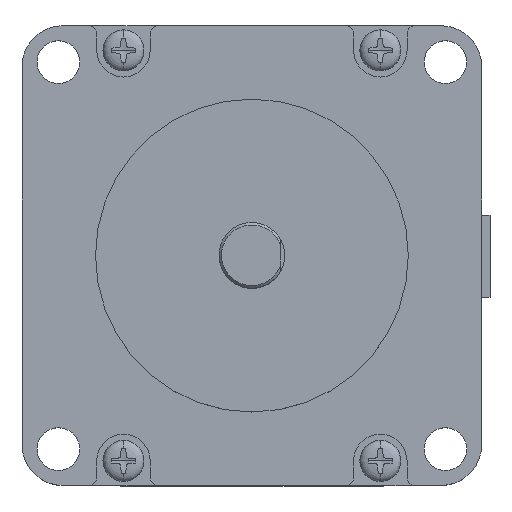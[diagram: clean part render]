
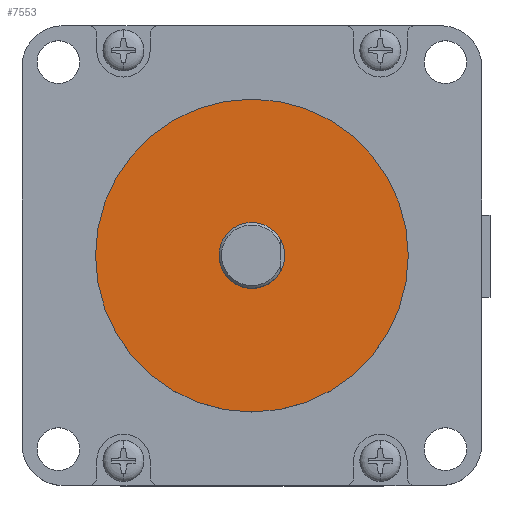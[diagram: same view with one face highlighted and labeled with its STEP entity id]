
A CAD part, top view. The second image highlights one B-rep face of the part: STEP entity #7553.
In plain terms, the highlighted planar face has unit normal (0, 0, 1).
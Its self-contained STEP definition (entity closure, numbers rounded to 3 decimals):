
#696=CARTESIAN_POINT('',(28.,28.,56.6));
#697=DIRECTION('',(0.,0.,1.));
#698=DIRECTION('',(1.,0.,0.));
#699=AXIS2_PLACEMENT_3D('',#696,#697,#698);
#701=CARTESIAN_POINT('',(28.,28.,56.6));
#702=DIRECTION('',(0.,0.,1.));
#703=DIRECTION('',(-1.,0.,0.));
#704=AXIS2_PLACEMENT_3D('',#701,#702,#703);
#706=CARTESIAN_POINT('',(28.,28.,56.6));
#707=DIRECTION('',(0.,0.,-1.));
#708=DIRECTION('',(-1.,0.,0.));
#709=AXIS2_PLACEMENT_3D('',#706,#707,#708);
#715=CARTESIAN_POINT('',(28.,28.,56.6));
#716=DIRECTION('',(0.,0.,-1.));
#717=DIRECTION('',(1.,0.,0.));
#718=AXIS2_PLACEMENT_3D('',#715,#716,#717);
#6500=CARTESIAN_POINT('',(47.05,28.,56.6));
#6501=CARTESIAN_POINT('',(8.95,28.,56.6));
#6502=VERTEX_POINT('',#6500);
#6503=VERTEX_POINT('',#6501);
#6504=CARTESIAN_POINT('',(24.,28.,56.6));
#6505=CARTESIAN_POINT('',(32.,28.,56.6));
#6506=VERTEX_POINT('',#6504);
#6507=VERTEX_POINT('',#6505);
#7538=CARTESIAN_POINT('',(0.,0.,56.6));
#7539=DIRECTION('',(0.,0.,1.));
#7540=DIRECTION('',(1.,0.,0.));
#7541=AXIS2_PLACEMENT_3D('',#7538,#7539,#7540);
#7542=PLANE('',#7541);
#7543=ORIENTED_EDGE('',*,*,#7518,.F.);
#7544=ORIENTED_EDGE('',*,*,#7532,.F.);
#7545=EDGE_LOOP('',(#7543,#7544));
#7546=FACE_OUTER_BOUND('',#7545,.F.);
#7548=ORIENTED_EDGE('',*,*,#7547,.F.);
#7550=ORIENTED_EDGE('',*,*,#7549,.F.);
#7551=EDGE_LOOP('',(#7548,#7550));
#7552=FACE_BOUND('',#7551,.F.);
#7553=ADVANCED_FACE('',(#7546,#7552),#7542,.T.);
#700=CIRCLE('',#699,19.05);
#705=CIRCLE('',#704,19.05);
#710=CIRCLE('',#709,4.);
#719=CIRCLE('',#718,4.);
#7518=EDGE_CURVE('',#6502,#6503,#700,.T.);
#7532=EDGE_CURVE('',#6503,#6502,#705,.T.);
#7547=EDGE_CURVE('',#6506,#6507,#710,.T.);
#7549=EDGE_CURVE('',#6507,#6506,#719,.T.);
